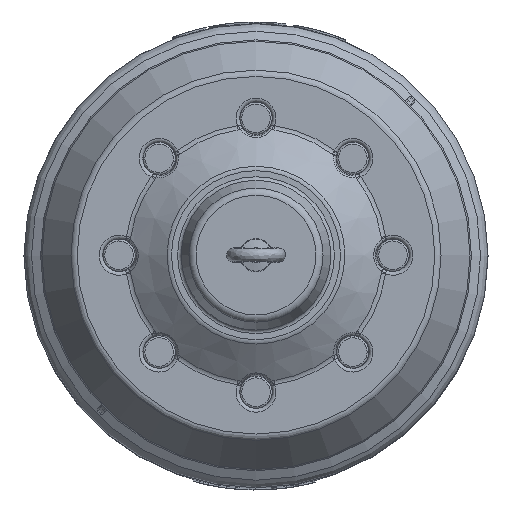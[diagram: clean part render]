
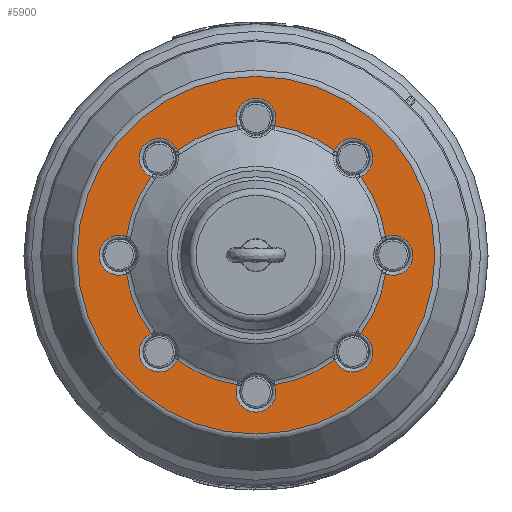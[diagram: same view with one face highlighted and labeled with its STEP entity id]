
A CAD part, top view. The second image highlights one B-rep face of the part: STEP entity #5900.
In plain terms, the highlighted planar face has unit normal (0, 0, 1).
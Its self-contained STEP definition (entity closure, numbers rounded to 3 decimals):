
#5900=ADVANCED_FACE('',(#29239,#29241),#29243,.T.);
#29239=FACE_BOUND('',#29240,.T.);
#29240=EDGE_LOOP('',(#93025));
#29241=FACE_BOUND('',#29242,.T.);
#29242=EDGE_LOOP('',(#93026,#93027,#93028,#93029,#93030,#93031,#93032,#93033,#93034,
#93035,#93036,#93037,#93038,#93039,#93040,#93041));
#29243=PLANE('',#29244);
#29244=AXIS2_PLACEMENT_3D('',#29245,#29246,#29247);
#29245=CARTESIAN_POINT('',(0.,0.,61.247));
#29246=DIRECTION('',(0.,0.,1.));
#29247=DIRECTION('',(-1.,0.,0.));
#93025=ORIENTED_EDGE('',*,*,#98578,.F.);
#93026=ORIENTED_EDGE('',*,*,#98534,.T.);
#93027=ORIENTED_EDGE('',*,*,#98579,.F.);
#93028=ORIENTED_EDGE('',*,*,#98524,.T.);
#93029=ORIENTED_EDGE('',*,*,#98580,.F.);
#93030=ORIENTED_EDGE('',*,*,#98514,.T.);
#93031=ORIENTED_EDGE('',*,*,#98581,.F.);
#93032=ORIENTED_EDGE('',*,*,#98504,.T.);
#93033=ORIENTED_EDGE('',*,*,#98582,.F.);
#93034=ORIENTED_EDGE('',*,*,#98494,.T.);
#93035=ORIENTED_EDGE('',*,*,#98583,.F.);
#93036=ORIENTED_EDGE('',*,*,#98484,.T.);
#93037=ORIENTED_EDGE('',*,*,#98584,.F.);
#93038=ORIENTED_EDGE('',*,*,#98474,.T.);
#93039=ORIENTED_EDGE('',*,*,#98585,.F.);
#93040=ORIENTED_EDGE('',*,*,#98464,.T.);
#93041=ORIENTED_EDGE('',*,*,#98573,.F.);
#98464=EDGE_CURVE('',#104013,#104010,#104014,.T.);
#98474=EDGE_CURVE('',#104029,#104026,#104030,.T.);
#98484=EDGE_CURVE('',#104045,#104042,#104046,.T.);
#98494=EDGE_CURVE('',#104061,#104058,#104062,.T.);
#98504=EDGE_CURVE('',#104077,#104074,#104078,.T.);
#98514=EDGE_CURVE('',#104093,#104090,#104094,.T.);
#98524=EDGE_CURVE('',#104109,#104106,#104110,.T.);
#98534=EDGE_CURVE('',#103998,#104122,#104125,.T.);
#98573=EDGE_CURVE('',#103998,#104010,#104189,.F.);
#98578=EDGE_CURVE('',#104196,#104196,#104197,.T.);
#98579=EDGE_CURVE('',#104109,#104122,#104198,.F.);
#98580=EDGE_CURVE('',#104093,#104106,#104199,.F.);
#98581=EDGE_CURVE('',#104077,#104090,#104200,.F.);
#98582=EDGE_CURVE('',#104061,#104074,#104201,.F.);
#98583=EDGE_CURVE('',#104045,#104058,#104202,.F.);
#98584=EDGE_CURVE('',#104029,#104042,#104203,.F.);
#98585=EDGE_CURVE('',#104013,#104026,#104204,.F.);
#103998=VERTEX_POINT('',#138297);
#104010=VERTEX_POINT('',#138460);
#104013=VERTEX_POINT('',#138474);
#104014=CIRCLE('',#138475,137.64);
#104026=VERTEX_POINT('',#138631);
#104029=VERTEX_POINT('',#138642);
#104030=CIRCLE('',#138643,137.64);
#104042=VERTEX_POINT('',#138799);
#104045=VERTEX_POINT('',#138810);
#104046=CIRCLE('',#138811,137.64);
#104058=VERTEX_POINT('',#138967);
#104061=VERTEX_POINT('',#138978);
#104062=CIRCLE('',#138979,137.64);
#104074=VERTEX_POINT('',#139135);
#104077=VERTEX_POINT('',#139146);
#104078=CIRCLE('',#139147,137.64);
#104090=VERTEX_POINT('',#139303);
#104093=VERTEX_POINT('',#139314);
#104094=CIRCLE('',#139315,137.64);
#104106=VERTEX_POINT('',#139471);
#104109=VERTEX_POINT('',#139482);
#104110=CIRCLE('',#139483,137.64);
#104122=VERTEX_POINT('',#139639);
#104125=CIRCLE('',#139650,137.64);
#104189=CIRCLE('',#140154,21.001);
#104196=VERTEX_POINT('',#140207);
#104197=CIRCLE('',#140208,188.027);
#104198=CIRCLE('',#140212,21.001);
#104199=CIRCLE('',#140216,21.001);
#104200=CIRCLE('',#140220,21.001);
#104201=CIRCLE('',#140224,21.001);
#104202=CIRCLE('',#140228,21.001);
#104203=CIRCLE('',#140232,21.001);
#104204=CIRCLE('',#140236,21.001);
#138297=CARTESIAN_POINT('',(-136.249,19.519,61.247));
#138460=CARTESIAN_POINT('',(-136.249,-19.519,61.247));
#138474=CARTESIAN_POINT('',(-110.144,-82.541,61.247));
#138475=AXIS2_PLACEMENT_3D('',#138476,#138477,#138478);
#138476=CARTESIAN_POINT('',(0.,0.,61.247));
#138477=DIRECTION('',(0.,0.,-1.));
#138478=DIRECTION('',(-0.8,-0.6,0.));
#138631=CARTESIAN_POINT('',(-82.541,-110.144,61.247));
#138642=CARTESIAN_POINT('',(-19.519,-136.249,61.247));
#138643=AXIS2_PLACEMENT_3D('',#138644,#138645,#138646);
#138644=CARTESIAN_POINT('',(0.,0.,61.247));
#138645=DIRECTION('',(0.,0.,-1.));
#138646=DIRECTION('',(-0.142,-0.99,0.));
#138799=CARTESIAN_POINT('',(19.519,-136.249,61.247));
#138810=CARTESIAN_POINT('',(82.541,-110.144,61.247));
#138811=AXIS2_PLACEMENT_3D('',#138812,#138813,#138814);
#138812=CARTESIAN_POINT('',(0.,0.,61.247));
#138813=DIRECTION('',(0.,0.,-1.));
#138814=DIRECTION('',(0.6,-0.8,0.));
#138967=CARTESIAN_POINT('',(110.144,-82.541,61.247));
#138978=CARTESIAN_POINT('',(136.249,-19.519,61.247));
#138979=AXIS2_PLACEMENT_3D('',#138980,#138981,#138982);
#138980=CARTESIAN_POINT('',(0.,0.,61.247));
#138981=DIRECTION('',(0.,0.,-1.));
#138982=DIRECTION('',(0.99,-0.142,0.));
#139135=CARTESIAN_POINT('',(136.249,19.519,61.247));
#139146=CARTESIAN_POINT('',(110.144,82.541,61.247));
#139147=AXIS2_PLACEMENT_3D('',#139148,#139149,#139150);
#139148=CARTESIAN_POINT('',(0.,0.,61.247));
#139149=DIRECTION('',(0.,0.,-1.));
#139150=DIRECTION('',(0.8,0.6,0.));
#139303=CARTESIAN_POINT('',(82.541,110.144,61.247));
#139314=CARTESIAN_POINT('',(19.519,136.249,61.247));
#139315=AXIS2_PLACEMENT_3D('',#139316,#139317,#139318);
#139316=CARTESIAN_POINT('',(0.,0.,61.247));
#139317=DIRECTION('',(0.,0.,-1.));
#139318=DIRECTION('',(0.142,0.99,0.));
#139471=CARTESIAN_POINT('',(-19.519,136.249,61.247));
#139482=CARTESIAN_POINT('',(-82.541,110.144,61.247));
#139483=AXIS2_PLACEMENT_3D('',#139484,#139485,#139486);
#139484=CARTESIAN_POINT('',(0.,0.,61.247));
#139485=DIRECTION('',(0.,0.,-1.));
#139486=DIRECTION('',(-0.6,0.8,0.));
#139639=CARTESIAN_POINT('',(-110.144,82.541,61.247));
#139650=AXIS2_PLACEMENT_3D('',#139651,#139652,#139653);
#139651=CARTESIAN_POINT('',(0.,0.,61.247));
#139652=DIRECTION('',(0.,0.,-1.));
#139653=DIRECTION('',(-0.99,0.142,0.));
#140154=AXIS2_PLACEMENT_3D('',#140155,#140156,#140157);
#140155=CARTESIAN_POINT('',(-144.,0.,61.247));
#140156=DIRECTION('',(0.,0.,-1.));
#140157=DIRECTION('',(0.369,-0.929,0.));
#140207=CARTESIAN_POINT('',(-188.027,0.,61.247));
#140208=AXIS2_PLACEMENT_3D('',#140209,#140210,#140211);
#140209=CARTESIAN_POINT('',(0.,0.,61.247));
#140210=DIRECTION('',(0.,0.,-1.));
#140211=DIRECTION('',(-1.,0.,0.));
#140212=AXIS2_PLACEMENT_3D('',#140213,#140214,#140215);
#140213=CARTESIAN_POINT('',(-101.823,101.823,61.247));
#140214=DIRECTION('',(0.,0.,-1.));
#140215=DIRECTION('',(-0.396,-0.918,0.));
#140216=AXIS2_PLACEMENT_3D('',#140217,#140218,#140219);
#140217=CARTESIAN_POINT('',(0.,144.,61.247));
#140218=DIRECTION('',(0.,0.,-1.));
#140219=DIRECTION('',(-0.929,-0.369,0.));
#140220=AXIS2_PLACEMENT_3D('',#140221,#140222,#140223);
#140221=CARTESIAN_POINT('',(101.823,101.823,61.247));
#140222=DIRECTION('',(0.,0.,-1.));
#140223=DIRECTION('',(-0.918,0.396,0.));
#140224=AXIS2_PLACEMENT_3D('',#140225,#140226,#140227);
#140225=CARTESIAN_POINT('',(144.,0.,61.247));
#140226=DIRECTION('',(0.,0.,-1.));
#140227=DIRECTION('',(-0.369,0.929,0.));
#140228=AXIS2_PLACEMENT_3D('',#140229,#140230,#140231);
#140229=CARTESIAN_POINT('',(101.823,-101.823,61.247));
#140230=DIRECTION('',(0.,0.,-1.));
#140231=DIRECTION('',(0.396,0.918,0.));
#140232=AXIS2_PLACEMENT_3D('',#140233,#140234,#140235);
#140233=CARTESIAN_POINT('',(0.,-144.,61.247));
#140234=DIRECTION('',(0.,0.,-1.));
#140235=DIRECTION('',(0.929,0.369,0.));
#140236=AXIS2_PLACEMENT_3D('',#140237,#140238,#140239);
#140237=CARTESIAN_POINT('',(-101.823,-101.823,61.247));
#140238=DIRECTION('',(0.,0.,-1.));
#140239=DIRECTION('',(0.918,-0.396,0.));
